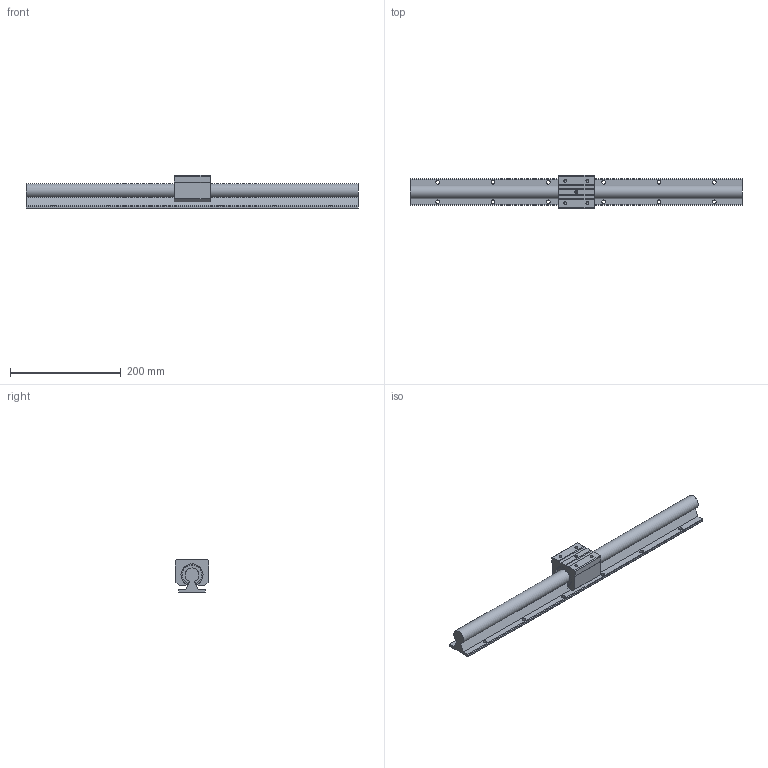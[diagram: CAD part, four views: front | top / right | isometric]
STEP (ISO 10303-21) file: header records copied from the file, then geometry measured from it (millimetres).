
FILE_DESCRIPTION((''),'2;1');
FILE_NAME('D:\製品 (図面)\カタログ用3D\リニアガイド関連\STEP形式\GHA(W)\GHAW25.stp','2010-06-08T09:15:51',('Tsuchiya'),(''),'Autodesk Inventor 10','Autodesk Inventor 10','');
FILE_SCHEMA(('AUTOMOTIVE_DESIGN { 1 0 10303 214 1 1 1 1 }'));
Length unit declared in the file: millimetre
Products named in the file (3): GHAW25; GHAW251; GHAW252
Assembly tree (2 placements, depth 2):
  GHAW25
    GHAW251
    GHAW252
Bounding box: 600 x 60 x 60 mm (x, y, z)
Volume: 708274.7 mm3; surface area: 140759.5 mm2
Topology: 2 solids, 2 shells, 171 faces, 461 edges, 303 vertices
Faces by surface type: plane 100, cylinder 46, bspline 10, torus 8, cone 7
Full cylindrical faces by diameter (mm): 6.5 x12, 10 x6, 10.4 x6
Entity records: 5109 total; most frequent: CARTESIAN_POINT 1122, DIRECTION 784, ORIENTED_EDGE 776, EDGE_CURVE 388, AXIS2_PLACEMENT_3D 276, VERTEX_POINT 276, EDGE_LOOP 254, VECTOR 232
